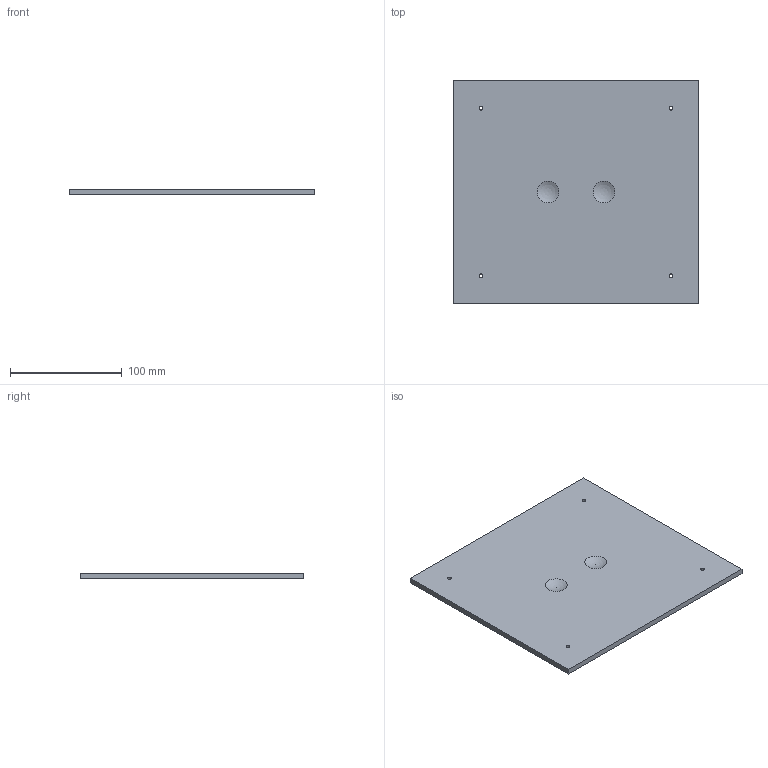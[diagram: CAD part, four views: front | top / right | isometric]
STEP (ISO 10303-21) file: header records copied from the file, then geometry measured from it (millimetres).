
FILE_DESCRIPTION(('Open CASCADE Model'),'2;1');
FILE_NAME('Open CASCADE Shape Model','2026-10-21T17:23:51',('Author'),( 'Open CASCADE'),'Open CASCADE STEP processor 7.9','Open CASCADE 7.9' ,'Unknown');
FILE_SCHEMA(('AUTOMOTIVE_DESIGN { 1 0 10303 214 1 1 1 1 }'));
Length unit declared in the file: millimetre
Products named in the file (1): Open CASCADE STEP translator 7.9 42
Bounding box: 220 x 200 x 5 mm (x, y, z)
Volume: 219057.9 mm3; surface area: 92380.3 mm2
Topology: 1 solids, 1 shells, 12 faces, 30 edges, 20 vertices
Faces by surface type: plane 6, cylinder 4, sphere 2
Full cylindrical faces by diameter (mm): 3.4 x4
Entity records: 770 total; most frequent: CARTESIAN_POINT 165, DIRECTION 114, LINE 62, VECTOR 62, ORIENTED_EDGE 56, PCURVE 56, DEFINITIONAL_REPRESENTATION 56, EDGE_CURVE 28
